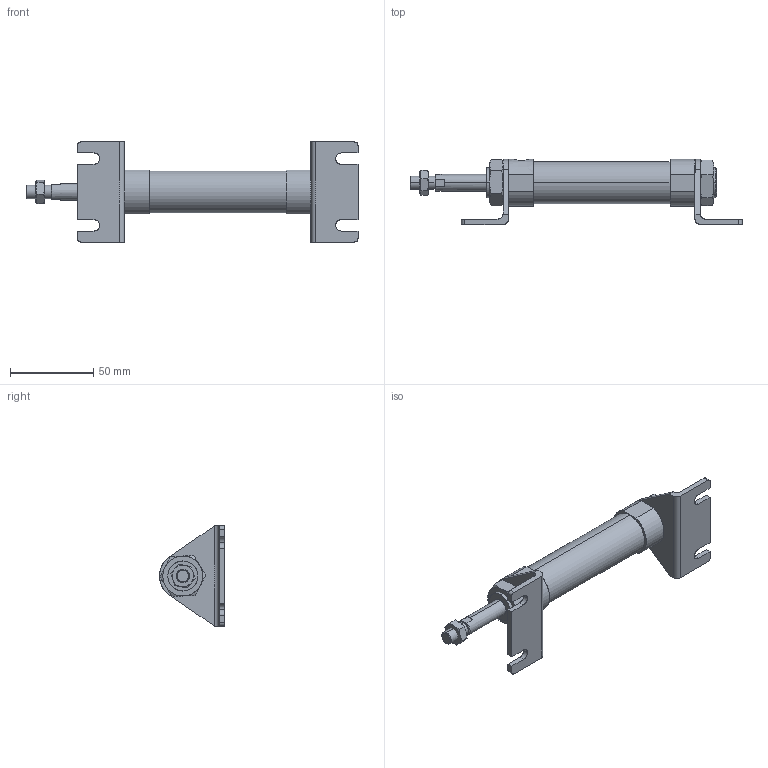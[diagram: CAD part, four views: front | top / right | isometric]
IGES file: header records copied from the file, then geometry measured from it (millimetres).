
Start section: SolidWorks IGES file using analytic representation for surfaces
Global section: file name: C:\Users\Toshiba\Desktop\J#0-20-25-L.IGS; native system: SolidWorks 2014; preprocessor: SolidWorks 2014; author: Toshiba; date: 160310.084128; units: millimetre
Bounding box: 199.2 x 39 x 60 mm (x, y, z)
Surface area: 29636.4 mm2 (no closed solid volume)
Topology: 0 solids, 0 shells, 165 faces, 2566 edges, 2566 vertices
Faces by surface type: bspline 109, revolution 56
